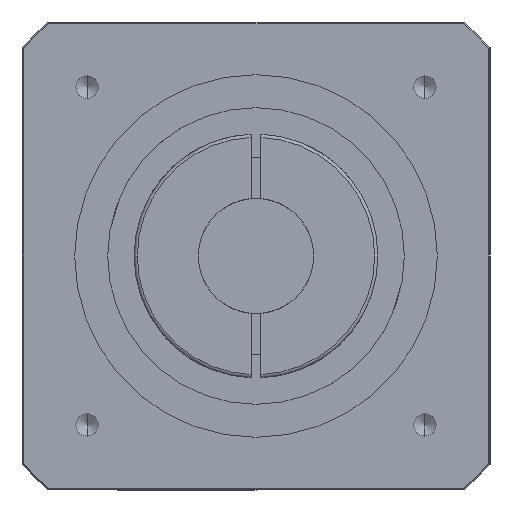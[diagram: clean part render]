
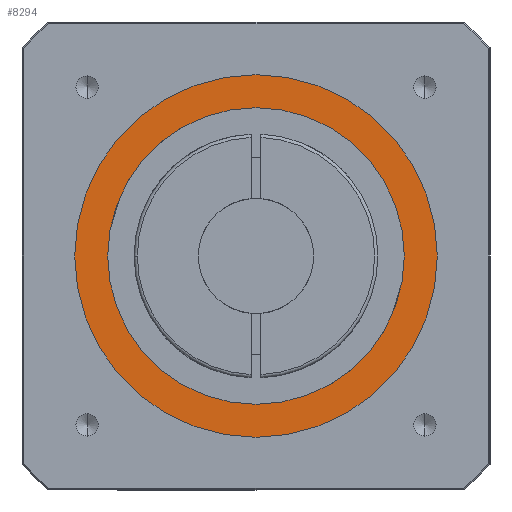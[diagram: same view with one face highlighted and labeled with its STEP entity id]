
A CAD part, front view. The second image highlights one B-rep face of the part: STEP entity #8294.
In plain terms, the highlighted planar face has unit normal (0, -1, 0).
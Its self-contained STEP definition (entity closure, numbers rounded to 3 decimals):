
#61 = EDGE_CURVE ( 'NONE', #4893, #4907, #7017, .T. ) ;
#128 = EDGE_CURVE ( 'NONE', #4907, #4893, #7136, .T. ) ;
#669 = CIRCLE ( 'NONE', #6919, 55. ) ;
#710 = FACE_OUTER_BOUND ( 'NONE', #5586, .T. ) ;
#716 = FACE_BOUND ( 'NONE', #5564, .T. ) ;
#1282 = CARTESIAN_POINT ( 'NONE',  ( 0., -117.5, 0. ) ) ;
#1283 = DIRECTION ( 'NONE',  ( 0., -1., 0. ) ) ;
#1284 = DIRECTION ( 'NONE',  ( 0., 0., -1. ) ) ;
#1406 = CARTESIAN_POINT ( 'NONE',  ( 0., -117.5, 0. ) ) ;
#1411 = PLANE ( 'NONE',  #6932 ) ;
#1413 = DIRECTION ( 'NONE',  ( 0., -1., 0. ) ) ;
#1414 = DIRECTION ( 'NONE',  ( 0., 0., -1. ) ) ;
#2294 = EDGE_CURVE ( 'NONE', #4938, #4866, #3579, .T. ) ;
#2793 = AXIS2_PLACEMENT_3D ( 'NONE', #7556, #7560, #7557 ) ;
#2825 = AXIS2_PLACEMENT_3D ( 'NONE', #6516, #6517, #6518 ) ;
#3579 = CIRCLE ( 'NONE', #6764, 55. ) ;
#3874 = CARTESIAN_POINT ( 'NONE',  ( 0., -117.5, 55. ) ) ;
#3901 = CARTESIAN_POINT ( 'NONE',  ( 0., -117.5, -45. ) ) ;
#3915 = CARTESIAN_POINT ( 'NONE',  ( 0., -117.5, 45. ) ) ;
#3946 = CARTESIAN_POINT ( 'NONE',  ( 0., -117.5, -55. ) ) ;
#4866 = VERTEX_POINT ( 'NONE', #3874 ) ;
#4893 = VERTEX_POINT ( 'NONE', #3901 ) ;
#4907 = VERTEX_POINT ( 'NONE', #3915 ) ;
#4938 = VERTEX_POINT ( 'NONE', #3946 ) ;
#5564 = EDGE_LOOP ( 'NONE', ( #5933, #5934 ) ) ;
#5586 = EDGE_LOOP ( 'NONE', ( #5931, #5932 ) ) ;
#5931 = ORIENTED_EDGE ( 'NONE', *, *, #2294, .T. ) ;
#5932 = ORIENTED_EDGE ( 'NONE', *, *, #7476, .T. ) ;
#5933 = ORIENTED_EDGE ( 'NONE', *, *, #61, .T. ) ;
#5934 = ORIENTED_EDGE ( 'NONE', *, *, #128, .T. ) ;
#6516 = CARTESIAN_POINT ( 'NONE',  ( 0., -117.5, 0. ) ) ;
#6517 = DIRECTION ( 'NONE',  ( 0., 1., 0. ) ) ;
#6518 = DIRECTION ( 'NONE',  ( 0., 0., -1. ) ) ;
#6764 = AXIS2_PLACEMENT_3D ( 'NONE', #7859, #7861, #7863 ) ;
#6919 = AXIS2_PLACEMENT_3D ( 'NONE', #1282, #1283, #1284 ) ;
#6932 = AXIS2_PLACEMENT_3D ( 'NONE', #1406, #1413, #1414 ) ;
#7017 = CIRCLE ( 'NONE', #2793, 45. ) ;
#7136 = CIRCLE ( 'NONE', #2825, 45. ) ;
#7476 = EDGE_CURVE ( 'NONE', #4866, #4938, #669, .T. ) ;
#7556 = CARTESIAN_POINT ( 'NONE',  ( 0., -117.5, 0. ) ) ;
#7557 = DIRECTION ( 'NONE',  ( 0., 0., -1. ) ) ;
#7560 = DIRECTION ( 'NONE',  ( 0., 1., 0. ) ) ;
#7859 = CARTESIAN_POINT ( 'NONE',  ( 0., -117.5, 0. ) ) ;
#7861 = DIRECTION ( 'NONE',  ( 0., -1., 0. ) ) ;
#7863 = DIRECTION ( 'NONE',  ( 0., 0., -1. ) ) ;
#8294 = ADVANCED_FACE ( 'NONE', ( #710, #716 ), #1411, .T. ) ;
